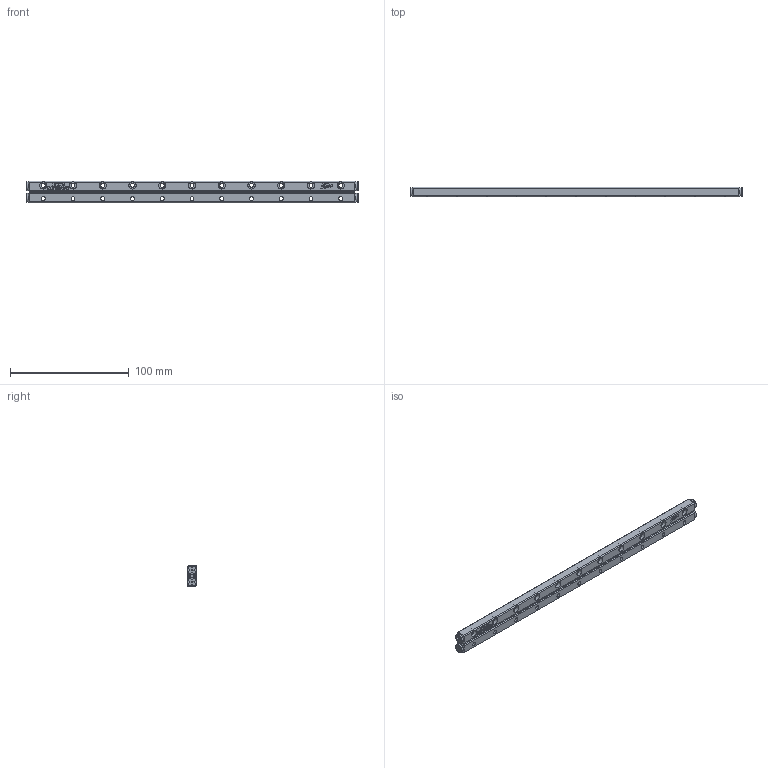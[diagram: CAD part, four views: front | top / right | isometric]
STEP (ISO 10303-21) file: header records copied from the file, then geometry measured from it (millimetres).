
FILE_DESCRIPTION (( 'STEP AP203' ), '1' );
FILE_NAME ('GRV03-275.STEP', '2023-10-20T06:30:42', ( '' ), ( '' ), 'SwSTEP 2.0', 'SolidWorks 2019', '' );
FILE_SCHEMA (( 'CONFIG_CONTROL_DESIGN' ));
Length unit declared in the file: millimetre
Products named in the file (3): GRVP03-275-模糊化保持器組; GRV03-275; GRV03-275-模糊化軌道
Assembly tree (3 placements, depth 2):
  GRV03-275
    GRV03-275-模糊化軌道  x2
    GRVP03-275-模糊化保持器組
Bounding box: 279 x 8 x 18 mm (x, y, z)
Volume: 33448.2 mm3; surface area: 24567.1 mm2
Topology: 3 solids, 3 shells, 1334 faces, 3298 edges, 2148 vertices
Faces by surface type: plane 854, cylinder 248, bspline 122, torus 74, cone 36
Full cylindrical faces by diameter (mm): 3.3 x22, 6 x22, 7.5 x4
Entity records: 31859 total; most frequent: CARTESIAN_POINT 9954, ORIENTED_EDGE 4620, DIRECTION 4013, EDGE_CURVE 2310, VERTEX_POINT 1529, LINE 1441, VECTOR 1441, AXIS2_PLACEMENT_3D 1286
